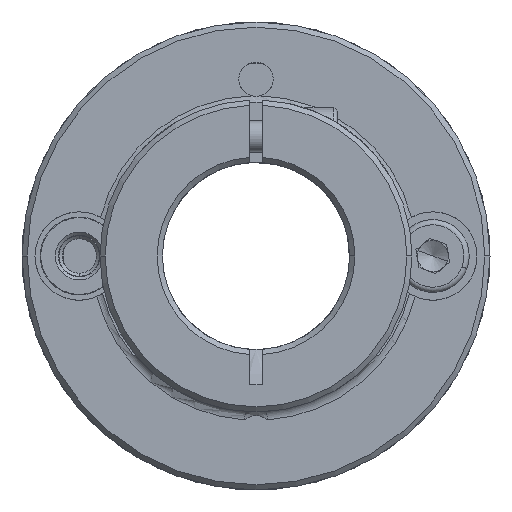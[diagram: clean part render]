
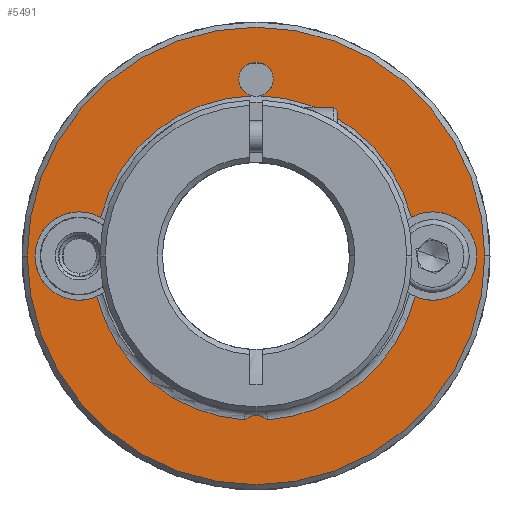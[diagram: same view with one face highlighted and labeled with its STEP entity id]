
A CAD part, front view. The second image highlights one B-rep face of the part: STEP entity #5491.
In plain terms, the highlighted planar face has unit normal (0, -1, 0).
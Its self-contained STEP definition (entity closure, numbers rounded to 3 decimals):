
#35 = VERTEX_POINT ( 'NONE', #14253 ) ;
#267 = CARTESIAN_POINT ( 'NONE',  ( -9.653, -8.743, 62. ) ) ;
#310 = DIRECTION ( 'NONE',  ( 0., 1., 0. ) ) ;
#374 = CARTESIAN_POINT ( 'NONE',  ( 11.597, -8.743, 45. ) ) ;
#384 = CARTESIAN_POINT ( 'NONE',  ( -31.653, -8.743, 45. ) ) ;
#605 = CARTESIAN_POINT ( 'NONE',  ( 7.347, -8.743, 45. ) ) ;
#724 = EDGE_CURVE ( 'NONE', #13948, #6794, #9040, .T. ) ;
#833 = ORIENTED_EDGE ( 'NONE', *, *, #10148, .T. ) ;
#956 = ORIENTED_EDGE ( 'NONE', *, *, #5580, .T. ) ;
#1138 = DIRECTION ( 'NONE',  ( 1., 0., 0. ) ) ;
#1227 = DIRECTION ( 'NONE',  ( 1., 0., 0. ) ) ;
#1417 = AXIS2_PLACEMENT_3D ( 'NONE', #2471, #12974, #6053 ) ;
#1459 = CIRCLE ( 'NONE', #3714, 15.8 ) ;
#1708 = CIRCLE ( 'NONE', #9076, 4.25 ) ;
#1808 = AXIS2_PLACEMENT_3D ( 'NONE', #9850, #8706, #12175 ) ;
#1947 = DIRECTION ( 'NONE',  ( 0., 1., 0. ) ) ;
#2263 = CARTESIAN_POINT ( 'NONE',  ( 5.291, -8.743, 48.72 ) ) ;
#2334 = CIRCLE ( 'NONE', #7118, 1.65 ) ;
#2471 = CARTESIAN_POINT ( 'NONE',  ( -9.653, -8.743, 62. ) ) ;
#3543 = ORIENTED_EDGE ( 'NONE', *, *, #4031, .T. ) ;
#3705 = VERTEX_POINT ( 'NONE', #5211 ) ;
#3714 = AXIS2_PLACEMENT_3D ( 'NONE', #7243, #310, #6184 ) ;
#3820 = ORIENTED_EDGE ( 'NONE', *, *, #13110, .T. ) ;
#3891 = ORIENTED_EDGE ( 'NONE', *, *, #13717, .T. ) ;
#3961 = CARTESIAN_POINT ( 'NONE',  ( -9.653, -8.743, 28. ) ) ;
#4031 = EDGE_CURVE ( 'NONE', #3705, #6130, #13759, .T. ) ;
#4032 = CARTESIAN_POINT ( 'NONE',  ( -8.003, -8.743, 62. ) ) ;
#4051 = CARTESIAN_POINT ( 'NONE',  ( -11.303, -8.743, 62. ) ) ;
#4327 = EDGE_CURVE ( 'NONE', #9630, #10681, #5983, .T. ) ;
#4364 = CARTESIAN_POINT ( 'NONE',  ( -9.653, -8.743, 45. ) ) ;
#4628 = AXIS2_PLACEMENT_3D ( 'NONE', #8626, #12167, #11656 ) ;
#4854 = CARTESIAN_POINT ( 'NONE',  ( -24.597, -8.743, 48.72 ) ) ;
#5119 = DIRECTION ( 'NONE',  ( 0., 1., 0. ) ) ;
#5120 = DIRECTION ( 'NONE',  ( 0., 0., -1. ) ) ;
#5191 = DIRECTION ( 'NONE',  ( 0., 1., 0. ) ) ;
#5207 = VERTEX_POINT ( 'NONE', #9022 ) ;
#5211 = CARTESIAN_POINT ( 'NONE',  ( -10.744, -8.743, 29.238 ) ) ;
#5491 = ADVANCED_FACE ( 'NONE', ( #12273, #9741 ), #5634, .T. ) ;
#5575 = VERTEX_POINT ( 'NONE', #9461 ) ;
#5580 = EDGE_CURVE ( 'NONE', #13636, #5659, #2334, .T. ) ;
#5634 = PLANE ( 'NONE',  #6252 ) ;
#5659 = VERTEX_POINT ( 'NONE', #14639 ) ;
#5983 = CIRCLE ( 'NONE', #14766, 22. ) ;
#6053 = DIRECTION ( 'NONE',  ( 1., 0., 0. ) ) ;
#6130 = VERTEX_POINT ( 'NONE', #11916 ) ;
#6184 = DIRECTION ( 'NONE',  ( 1., 0., 0. ) ) ;
#6242 = CIRCLE ( 'NONE', #1417, 1.65 ) ;
#6252 = AXIS2_PLACEMENT_3D ( 'NONE', #13831, #13736, #6903 ) ;
#6794 = VERTEX_POINT ( 'NONE', #9669 ) ;
#6851 = ORIENTED_EDGE ( 'NONE', *, *, #7995, .T. ) ;
#6903 = DIRECTION ( 'NONE',  ( -0.802, 0., 0.597 ) ) ;
#7118 = AXIS2_PLACEMENT_3D ( 'NONE', #267, #8250, #11826 ) ;
#7144 = DIRECTION ( 'NONE',  ( 1., 0., 0. ) ) ;
#7164 = DIRECTION ( 'NONE',  ( 0., -1., 0. ) ) ;
#7243 = CARTESIAN_POINT ( 'NONE',  ( -9.653, -8.743, 45. ) ) ;
#7726 = EDGE_CURVE ( 'NONE', #5659, #13480, #13297, .T. ) ;
#7753 = EDGE_LOOP ( 'NONE', ( #13412, #13809 ) ) ;
#7995 = EDGE_CURVE ( 'NONE', #5207, #13526, #1708, .T. ) ;
#8071 = DIRECTION ( 'NONE',  ( 0., 1., 0. ) ) ;
#8250 = DIRECTION ( 'NONE',  ( 0., 1., 0. ) ) ;
#8277 = EDGE_CURVE ( 'NONE', #13526, #35, #13654, .T. ) ;
#8626 = CARTESIAN_POINT ( 'NONE',  ( -9.653, -8.743, 62. ) ) ;
#8647 = DIRECTION ( 'NONE',  ( 1., 0., 0. ) ) ;
#8691 = CARTESIAN_POINT ( 'NONE',  ( 12.347, -8.743, 45. ) ) ;
#8706 = DIRECTION ( 'NONE',  ( 0., 1., 0. ) ) ;
#8934 = EDGE_CURVE ( 'NONE', #35, #13171, #9104, .T. ) ;
#9022 = CARTESIAN_POINT ( 'NONE',  ( -30.903, -8.743, 45. ) ) ;
#9040 = CIRCLE ( 'NONE', #14516, 4.25 ) ;
#9076 = AXIS2_PLACEMENT_3D ( 'NONE', #12700, #12813, #1227 ) ;
#9104 = CIRCLE ( 'NONE', #4628, 1.65 ) ;
#9370 = CIRCLE ( 'NONE', #10514, 1.65 ) ;
#9461 = CARTESIAN_POINT ( 'NONE',  ( -8.562, -8.743, 29.238 ) ) ;
#9518 = EDGE_CURVE ( 'NONE', #10681, #9630, #10151, .T. ) ;
#9630 = VERTEX_POINT ( 'NONE', #384 ) ;
#9669 = CARTESIAN_POINT ( 'NONE',  ( 5.658, -8.743, 41.1 ) ) ;
#9741 = FACE_OUTER_BOUND ( 'NONE', #7753, .T. ) ;
#9760 = DIRECTION ( 'NONE',  ( 0., -1., 0. ) ) ;
#9850 = CARTESIAN_POINT ( 'NONE',  ( -9.653, -8.743, 45. ) ) ;
#9942 = DIRECTION ( 'NONE',  ( 1., 0., 0. ) ) ;
#9960 = DIRECTION ( 'NONE',  ( 0., 1., 0. ) ) ;
#10148 = EDGE_CURVE ( 'NONE', #13480, #13948, #10859, .T. ) ;
#10151 = CIRCLE ( 'NONE', #11801, 22. ) ;
#10514 = AXIS2_PLACEMENT_3D ( 'NONE', #3961, #9760, #5120 ) ;
#10681 = VERTEX_POINT ( 'NONE', #8691 ) ;
#10859 = CIRCLE ( 'NONE', #13577, 4.25 ) ;
#11095 = CARTESIAN_POINT ( 'NONE',  ( 7.347, -8.743, 45. ) ) ;
#11189 = AXIS2_PLACEMENT_3D ( 'NONE', #15032, #8071, #1138 ) ;
#11404 = EDGE_CURVE ( 'NONE', #6794, #5575, #1459, .T. ) ;
#11630 = AXIS2_PLACEMENT_3D ( 'NONE', #4364, #9960, #13463 ) ;
#11656 = DIRECTION ( 'NONE',  ( 1., 0., 0. ) ) ;
#11795 = CARTESIAN_POINT ( 'NONE',  ( -9.653, -8.743, 45. ) ) ;
#11801 = AXIS2_PLACEMENT_3D ( 'NONE', #11795, #7164, #14055 ) ;
#11826 = DIRECTION ( 'NONE',  ( 1., 0., 0. ) ) ;
#11856 = ORIENTED_EDGE ( 'NONE', *, *, #14813, .T. ) ;
#11916 = CARTESIAN_POINT ( 'NONE',  ( -24.964, -8.743, 41.1 ) ) ;
#11959 = CARTESIAN_POINT ( 'NONE',  ( -26.653, -8.743, 45. ) ) ;
#11988 = ORIENTED_EDGE ( 'NONE', *, *, #7726, .T. ) ;
#12167 = DIRECTION ( 'NONE',  ( 0., 1., 0. ) ) ;
#12175 = DIRECTION ( 'NONE',  ( 1., 0., 0. ) ) ;
#12273 = FACE_BOUND ( 'NONE', #14499, .T. ) ;
#12400 = CIRCLE ( 'NONE', #13828, 4.25 ) ;
#12700 = CARTESIAN_POINT ( 'NONE',  ( -26.653, -8.743, 45. ) ) ;
#12801 = DIRECTION ( 'NONE',  ( 0., -1., 0. ) ) ;
#12813 = DIRECTION ( 'NONE',  ( 0., 1., 0. ) ) ;
#12898 = CARTESIAN_POINT ( 'NONE',  ( -9.653, -8.743, 45. ) ) ;
#12911 = ORIENTED_EDGE ( 'NONE', *, *, #8934, .T. ) ;
#12974 = DIRECTION ( 'NONE',  ( 0., 1., 0. ) ) ;
#13110 = EDGE_CURVE ( 'NONE', #5575, #3705, #9370, .T. ) ;
#13171 = VERTEX_POINT ( 'NONE', #4051 ) ;
#13297 = CIRCLE ( 'NONE', #11189, 15.4 ) ;
#13300 = ORIENTED_EDGE ( 'NONE', *, *, #11404, .T. ) ;
#13412 = ORIENTED_EDGE ( 'NONE', *, *, #4327, .T. ) ;
#13463 = DIRECTION ( 'NONE',  ( 1., 0., 0. ) ) ;
#13480 = VERTEX_POINT ( 'NONE', #2263 ) ;
#13526 = VERTEX_POINT ( 'NONE', #4854 ) ;
#13577 = AXIS2_PLACEMENT_3D ( 'NONE', #605, #5119, #8647 ) ;
#13636 = VERTEX_POINT ( 'NONE', #4032 ) ;
#13654 = CIRCLE ( 'NONE', #1808, 15.4 ) ;
#13717 = EDGE_CURVE ( 'NONE', #6130, #5207, #12400, .T. ) ;
#13736 = DIRECTION ( 'NONE',  ( 0., -1., 0. ) ) ;
#13759 = CIRCLE ( 'NONE', #11630, 15.8 ) ;
#13809 = ORIENTED_EDGE ( 'NONE', *, *, #9518, .T. ) ;
#13828 = AXIS2_PLACEMENT_3D ( 'NONE', #11959, #5191, #14471 ) ;
#13831 = CARTESIAN_POINT ( 'NONE',  ( -9.653, -8.743, 28. ) ) ;
#13948 = VERTEX_POINT ( 'NONE', #374 ) ;
#14055 = DIRECTION ( 'NONE',  ( 1., 0., 0. ) ) ;
#14177 = ORIENTED_EDGE ( 'NONE', *, *, #724, .T. ) ;
#14253 = CARTESIAN_POINT ( 'NONE',  ( -10.037, -8.743, 60.395 ) ) ;
#14471 = DIRECTION ( 'NONE',  ( 1., 0., 0. ) ) ;
#14499 = EDGE_LOOP ( 'NONE', ( #3820, #3543, #3891, #6851, #14915, #12911, #11856, #956, #11988, #833, #14177, #13300 ) ) ;
#14516 = AXIS2_PLACEMENT_3D ( 'NONE', #11095, #1947, #9942 ) ;
#14639 = CARTESIAN_POINT ( 'NONE',  ( -9.27, -8.743, 60.395 ) ) ;
#14766 = AXIS2_PLACEMENT_3D ( 'NONE', #12898, #12801, #7144 ) ;
#14813 = EDGE_CURVE ( 'NONE', #13171, #13636, #6242, .T. ) ;
#14915 = ORIENTED_EDGE ( 'NONE', *, *, #8277, .T. ) ;
#15032 = CARTESIAN_POINT ( 'NONE',  ( -9.653, -8.743, 45. ) ) ;
